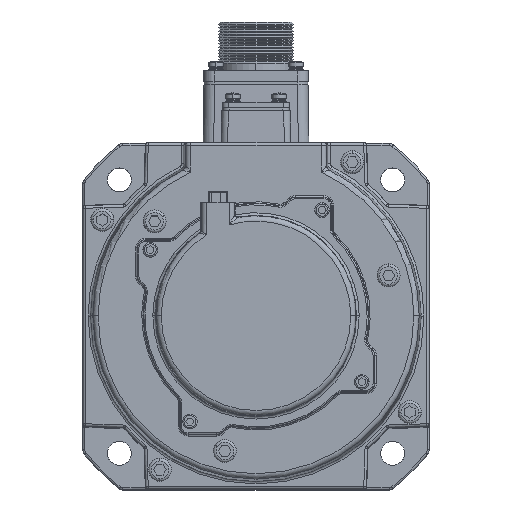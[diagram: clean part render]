
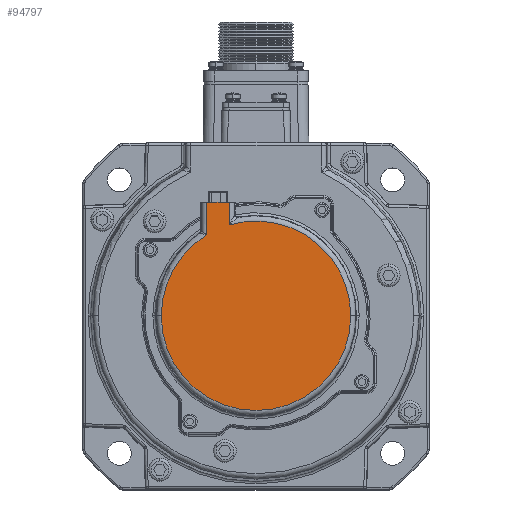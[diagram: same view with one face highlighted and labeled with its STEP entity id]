
A CAD part, top view. The second image highlights one B-rep face of the part: STEP entity #94797.
In plain terms, the highlighted planar face has unit normal (0, 0, 1).
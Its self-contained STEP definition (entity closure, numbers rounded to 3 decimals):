
#775 = DIRECTION ( 'NONE',  ( 0., 0., 1. ) ) ;
#2564 = CARTESIAN_POINT ( 'NONE',  ( -18.844, -13.773, -18.537 ) ) ;
#4313 = ORIENTED_EDGE ( 'NONE', *, *, #18477, .T. ) ;
#12161 = VERTEX_POINT ( 'NONE', #75908 ) ;
#12786 = VERTEX_POINT ( 'NONE', #66637 ) ;
#12799 = LINE ( 'NONE', #50899, #124760 ) ;
#18477 = EDGE_CURVE ( 'NONE', #12786, #12161, #12799, .T. ) ;
#19663 = EDGE_CURVE ( 'NONE', #114456, #134622, #55327, .T. ) ;
#20765 = DIRECTION ( 'NONE',  ( 0., 0., 1. ) ) ;
#20876 = EDGE_CURVE ( 'NONE', #22357, #114456, #55059, .T. ) ;
#22357 = VERTEX_POINT ( 'NONE', #94880 ) ;
#22626 = DIRECTION ( 'NONE',  ( 0., 1., 0. ) ) ;
#24293 = ORIENTED_EDGE ( 'NONE', *, *, #20876, .T. ) ;
#26096 = LINE ( 'NONE', #39081, #134719 ) ;
#28684 = CIRCLE ( 'NONE', #113232, 35.528 ) ;
#30486 = DIRECTION ( 'NONE',  ( 0., 0., 1. ) ) ;
#34250 = AXIS2_PLACEMENT_3D ( 'NONE', #73487, #775, #74391 ) ;
#36424 = AXIS2_PLACEMENT_3D ( 'NONE', #83794, #20765, #94312 ) ;
#39081 = CARTESIAN_POINT ( 'NONE',  ( -16.872, -13.773, -18.537 ) ) ;
#45833 = DIRECTION ( 'NONE',  ( 0., 0., 1. ) ) ;
#50899 = CARTESIAN_POINT ( 'NONE',  ( -27.4, -24.873, -18.537 ) ) ;
#53861 = ORIENTED_EDGE ( 'NONE', *, *, #100673, .T. ) ;
#55059 = CIRCLE ( 'NONE', #81761, 35.528 ) ;
#55327 = LINE ( 'NONE', #106740, #107937 ) ;
#60721 = DIRECTION ( 'NONE',  ( 1., 0., 0. ) ) ;
#66637 = CARTESIAN_POINT ( 'NONE',  ( -27.4, -13.773, -18.537 ) ) ;
#71937 = EDGE_CURVE ( 'NONE', #12161, #81371, #80327, .T. ) ;
#73487 = CARTESIAN_POINT ( 'NONE',  ( -8.872, -56.273, -18.537 ) ) ;
#74391 = DIRECTION ( 'NONE',  ( 1., 0., 0. ) ) ;
#75908 = CARTESIAN_POINT ( 'NONE',  ( -27.4, -25.959, -18.537 ) ) ;
#80327 = CIRCLE ( 'NONE', #36424, 35.528 ) ;
#81371 = VERTEX_POINT ( 'NONE', #97395 ) ;
#81761 = AXIS2_PLACEMENT_3D ( 'NONE', #93500, #30486, #104035 ) ;
#83794 = CARTESIAN_POINT ( 'NONE',  ( -8.872, -56.273, -18.537 ) ) ;
#85008 = EDGE_CURVE ( 'NONE', #12786, #134622, #26096, .T. ) ;
#91727 = CARTESIAN_POINT ( 'NONE',  ( -18.844, -22.174, -18.537 ) ) ;
#93500 = CARTESIAN_POINT ( 'NONE',  ( -8.872, -56.273, -18.537 ) ) ;
#94312 = DIRECTION ( 'NONE',  ( 1., 0., 0. ) ) ;
#94797 = ADVANCED_FACE ( 'NONE', ( #100412 ), #126878, .T. ) ;
#94880 = CARTESIAN_POINT ( 'NONE',  ( 26.656, -56.273, -18.537 ) ) ;
#97395 = CARTESIAN_POINT ( 'NONE',  ( -44.4, -56.273, -18.537 ) ) ;
#100412 = FACE_OUTER_BOUND ( 'NONE', #113517, .T. ) ;
#100673 = EDGE_CURVE ( 'NONE', #81371, #22357, #28684, .T. ) ;
#104035 = DIRECTION ( 'NONE',  ( 1., 0., 0. ) ) ;
#106740 = CARTESIAN_POINT ( 'NONE',  ( -18.844, -13.773, -18.537 ) ) ;
#107937 = VECTOR ( 'NONE', #22626, 1000. ) ;
#108055 = ORIENTED_EDGE ( 'NONE', *, *, #71937, .T. ) ;
#108877 = CARTESIAN_POINT ( 'NONE',  ( -8.872, -56.273, -18.537 ) ) ;
#113232 = AXIS2_PLACEMENT_3D ( 'NONE', #108877, #45833, #119502 ) ;
#113517 = EDGE_LOOP ( 'NONE', ( #121180, #4313, #108055, #53861, #24293, #131341 ) ) ;
#114456 = VERTEX_POINT ( 'NONE', #91727 ) ;
#119502 = DIRECTION ( 'NONE',  ( 1., 0., 0. ) ) ;
#121180 = ORIENTED_EDGE ( 'NONE', *, *, #85008, .F. ) ;
#124533 = DIRECTION ( 'NONE',  ( 0., -1., 0. ) ) ;
#124760 = VECTOR ( 'NONE', #124533, 1000. ) ;
#126878 = PLANE ( 'NONE',  #34250 ) ;
#131341 = ORIENTED_EDGE ( 'NONE', *, *, #19663, .T. ) ;
#134622 = VERTEX_POINT ( 'NONE', #2564 ) ;
#134719 = VECTOR ( 'NONE', #60721, 1000. ) ;
